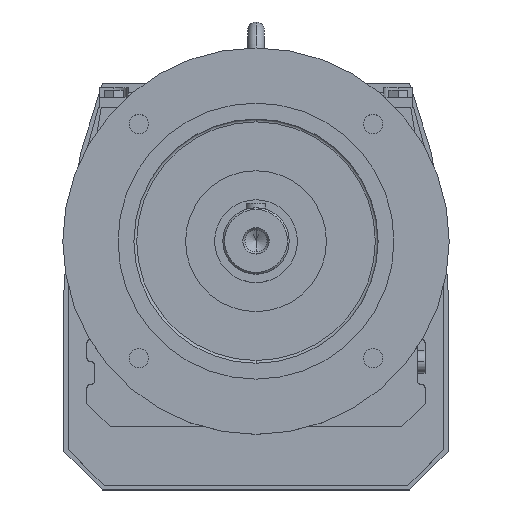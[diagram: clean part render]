
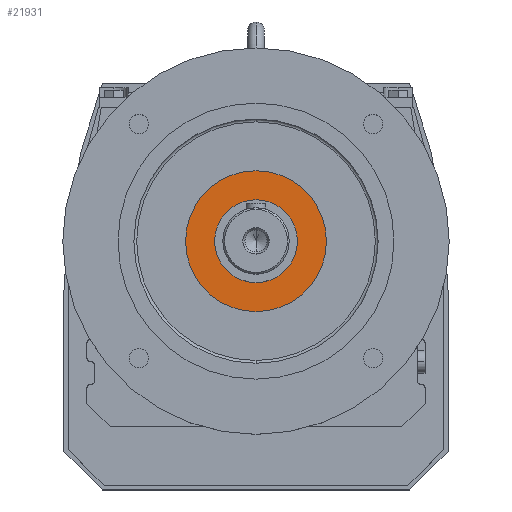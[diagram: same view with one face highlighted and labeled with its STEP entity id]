
A CAD part, top view. The second image highlights one B-rep face of the part: STEP entity #21931.
In plain terms, the highlighted planar face has unit normal (0, 0, 1).
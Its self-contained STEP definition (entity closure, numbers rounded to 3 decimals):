
#21788 = CYLINDRICAL_SURFACE('',#21789,63.788);
#21789 = AXIS2_PLACEMENT_3D('',#21790,#21791,#21792);
#21790 = CARTESIAN_POINT('',(0.,10.2,440.));
#21791 = DIRECTION('',(0.,0.,1.));
#21792 = DIRECTION('',(0.,-1.,0.));
#21818 = CYLINDRICAL_SURFACE('',#21819,63.788);
#21819 = AXIS2_PLACEMENT_3D('',#21820,#21821,#21822);
#21820 = CARTESIAN_POINT('',(0.,10.2,440.));
#21821 = DIRECTION('',(0.,0.,1.));
#21822 = DIRECTION('',(0.,-1.,0.));
#21837 = VERTEX_POINT('',#21838);
#21838 = CARTESIAN_POINT('',(0.,73.988,308.));
#21859 = VERTEX_POINT('',#21860);
#21860 = CARTESIAN_POINT('',(0.,-53.588,308.));
#21879 = EDGE_CURVE('',#21837,#21859,#21880,.T.);
#21880 = SURFACE_CURVE('',#21881,(#21886,#21892),.PCURVE_S1.);
#21881 = CIRCLE('',#21882,63.788);
#21882 = AXIS2_PLACEMENT_3D('',#21883,#21884,#21885);
#21883 = CARTESIAN_POINT('',(0.,10.2,308.));
#21884 = DIRECTION('',(0.,0.,-1.));
#21885 = DIRECTION('',(-1.,0.,0.));
#21886 = PCURVE('',#21788,#21887);
#21887 = DEFINITIONAL_REPRESENTATION('',(#21888),#21891);
#21888 = B_SPLINE_CURVE_WITH_KNOTS('',1,(#21889,#21890),.UNSPECIFIED.,
  .F.,.F.,(2,2),(1.571,4.712),
  .PIECEWISE_BEZIER_KNOTS.);
#21889 = CARTESIAN_POINT('',(3.142,-132.));
#21890 = CARTESIAN_POINT('',(0.,-132.));
#21891 = ( GEOMETRIC_REPRESENTATION_CONTEXT(2) 
PARAMETRIC_REPRESENTATION_CONTEXT() REPRESENTATION_CONTEXT('2D SPACE',''
  ) );
#21892 = PCURVE('',#21893,#21898);
#21893 = PLANE('',#21894);
#21894 = AXIS2_PLACEMENT_3D('',#21895,#21896,#21897);
#21895 = CARTESIAN_POINT('',(-27.516,-0.084,308.));
#21896 = DIRECTION('',(0.,0.,-1.));
#21897 = DIRECTION('',(-1.,0.,0.));
#21898 = DEFINITIONAL_REPRESENTATION('',(#21899),#21903);
#21899 = CIRCLE('',#21900,63.788);
#21900 = AXIS2_PLACEMENT_2D('',#21901,#21902);
#21901 = CARTESIAN_POINT('',(-27.516,10.284));
#21902 = DIRECTION('',(1.,0.));
#21903 = ( GEOMETRIC_REPRESENTATION_CONTEXT(2) 
PARAMETRIC_REPRESENTATION_CONTEXT() REPRESENTATION_CONTEXT('2D SPACE',''
  ) );
#21908 = EDGE_CURVE('',#21859,#21837,#21909,.T.);
#21909 = SURFACE_CURVE('',#21910,(#21915,#21921),.PCURVE_S1.);
#21910 = CIRCLE('',#21911,63.788);
#21911 = AXIS2_PLACEMENT_3D('',#21912,#21913,#21914);
#21912 = CARTESIAN_POINT('',(0.,10.2,308.));
#21913 = DIRECTION('',(0.,0.,-1.));
#21914 = DIRECTION('',(-1.,0.,0.));
#21915 = PCURVE('',#21818,#21916);
#21916 = DEFINITIONAL_REPRESENTATION('',(#21917),#21920);
#21917 = B_SPLINE_CURVE_WITH_KNOTS('',1,(#21918,#21919),.UNSPECIFIED.,
  .F.,.F.,(2,2),(4.712,7.854),
  .PIECEWISE_BEZIER_KNOTS.);
#21918 = CARTESIAN_POINT('',(6.283,-132.));
#21919 = CARTESIAN_POINT('',(3.142,-132.));
#21920 = ( GEOMETRIC_REPRESENTATION_CONTEXT(2) 
PARAMETRIC_REPRESENTATION_CONTEXT() REPRESENTATION_CONTEXT('2D SPACE',''
  ) );
#21921 = PCURVE('',#21893,#21922);
#21922 = DEFINITIONAL_REPRESENTATION('',(#21923),#21927);
#21923 = CIRCLE('',#21924,63.788);
#21924 = AXIS2_PLACEMENT_2D('',#21925,#21926);
#21925 = CARTESIAN_POINT('',(-27.516,10.284));
#21926 = DIRECTION('',(1.,0.));
#21927 = ( GEOMETRIC_REPRESENTATION_CONTEXT(2) 
PARAMETRIC_REPRESENTATION_CONTEXT() REPRESENTATION_CONTEXT('2D SPACE',''
  ) );
#21931 = ADVANCED_FACE('',(#21932,#21998),#21893,.F.);
#21932 = FACE_BOUND('',#21933,.T.);
#21933 = EDGE_LOOP('',(#21934,#21968));
#21934 = ORIENTED_EDGE('',*,*,#21935,.F.);
#21935 = EDGE_CURVE('',#21936,#21938,#21940,.T.);
#21936 = VERTEX_POINT('',#21937);
#21937 = CARTESIAN_POINT('',(0.,-27.3,308.));
#21938 = VERTEX_POINT('',#21939);
#21939 = CARTESIAN_POINT('',(0.,47.7,308.));
#21940 = SURFACE_CURVE('',#21941,(#21946,#21957),.PCURVE_S1.);
#21941 = CIRCLE('',#21942,37.5);
#21942 = AXIS2_PLACEMENT_3D('',#21943,#21944,#21945);
#21943 = CARTESIAN_POINT('',(0.,10.2,308.));
#21944 = DIRECTION('',(0.,0.,1.));
#21945 = DIRECTION('',(-1.,0.,0.));
#21946 = PCURVE('',#21893,#21947);
#21947 = DEFINITIONAL_REPRESENTATION('',(#21948),#21956);
#21948 = ( BOUNDED_CURVE() B_SPLINE_CURVE(2,(#21949,#21950,#21951,#21952
    ,#21953,#21954,#21955),.UNSPECIFIED.,.F.,.F.) 
B_SPLINE_CURVE_WITH_KNOTS((1,2,2,2,2,1),(-2.094,0.,
    2.094,4.189,6.283,8.378),
.UNSPECIFIED.) CURVE() GEOMETRIC_REPRESENTATION_ITEM() 
RATIONAL_B_SPLINE_CURVE((1.,0.5,1.,0.5,1.,0.5,1.)) REPRESENTATION_ITEM(
  '') );
#21949 = CARTESIAN_POINT('',(9.984,10.284));
#21950 = CARTESIAN_POINT('',(9.984,-54.668));
#21951 = CARTESIAN_POINT('',(-46.266,-22.192));
#21952 = CARTESIAN_POINT('',(-102.516,10.284));
#21953 = CARTESIAN_POINT('',(-46.266,42.76));
#21954 = CARTESIAN_POINT('',(9.984,75.236));
#21955 = CARTESIAN_POINT('',(9.984,10.284));
#21956 = ( GEOMETRIC_REPRESENTATION_CONTEXT(2) 
PARAMETRIC_REPRESENTATION_CONTEXT() REPRESENTATION_CONTEXT('2D SPACE',''
  ) );
#21957 = PCURVE('',#21958,#21963);
#21958 = CYLINDRICAL_SURFACE('',#21959,37.5);
#21959 = AXIS2_PLACEMENT_3D('',#21960,#21961,#21962);
#21960 = CARTESIAN_POINT('',(0.,10.2,440.));
#21961 = DIRECTION('',(0.,0.,1.));
#21962 = DIRECTION('',(0.,-1.,0.));
#21963 = DEFINITIONAL_REPRESENTATION('',(#21964),#21967);
#21964 = B_SPLINE_CURVE_WITH_KNOTS('',1,(#21965,#21966),.UNSPECIFIED.,
  .F.,.F.,(2,2),(1.571,4.712),
  .PIECEWISE_BEZIER_KNOTS.);
#21965 = CARTESIAN_POINT('',(0.,-132.));
#21966 = CARTESIAN_POINT('',(3.142,-132.));
#21967 = ( GEOMETRIC_REPRESENTATION_CONTEXT(2) 
PARAMETRIC_REPRESENTATION_CONTEXT() REPRESENTATION_CONTEXT('2D SPACE',''
  ) );
#21968 = ORIENTED_EDGE('',*,*,#21969,.F.);
#21969 = EDGE_CURVE('',#21938,#21936,#21970,.T.);
#21970 = SURFACE_CURVE('',#21971,(#21976,#21987),.PCURVE_S1.);
#21971 = CIRCLE('',#21972,37.5);
#21972 = AXIS2_PLACEMENT_3D('',#21973,#21974,#21975);
#21973 = CARTESIAN_POINT('',(0.,10.2,308.));
#21974 = DIRECTION('',(0.,0.,1.));
#21975 = DIRECTION('',(-1.,0.,0.));
#21976 = PCURVE('',#21893,#21977);
#21977 = DEFINITIONAL_REPRESENTATION('',(#21978),#21986);
#21978 = ( BOUNDED_CURVE() B_SPLINE_CURVE(2,(#21979,#21980,#21981,#21982
    ,#21983,#21984,#21985),.UNSPECIFIED.,.F.,.F.) 
B_SPLINE_CURVE_WITH_KNOTS((1,2,2,2,2,1),(-2.094,0.,
    2.094,4.189,6.283,8.378),
.UNSPECIFIED.) CURVE() GEOMETRIC_REPRESENTATION_ITEM() 
RATIONAL_B_SPLINE_CURVE((1.,0.5,1.,0.5,1.,0.5,1.)) REPRESENTATION_ITEM(
  '') );
#21979 = CARTESIAN_POINT('',(9.984,10.284));
#21980 = CARTESIAN_POINT('',(9.984,-54.668));
#21981 = CARTESIAN_POINT('',(-46.266,-22.192));
#21982 = CARTESIAN_POINT('',(-102.516,10.284));
#21983 = CARTESIAN_POINT('',(-46.266,42.76));
#21984 = CARTESIAN_POINT('',(9.984,75.236));
#21985 = CARTESIAN_POINT('',(9.984,10.284));
#21986 = ( GEOMETRIC_REPRESENTATION_CONTEXT(2) 
PARAMETRIC_REPRESENTATION_CONTEXT() REPRESENTATION_CONTEXT('2D SPACE',''
  ) );
#21987 = PCURVE('',#21988,#21993);
#21988 = CYLINDRICAL_SURFACE('',#21989,37.5);
#21989 = AXIS2_PLACEMENT_3D('',#21990,#21991,#21992);
#21990 = CARTESIAN_POINT('',(0.,10.2,440.));
#21991 = DIRECTION('',(0.,0.,1.));
#21992 = DIRECTION('',(0.,-1.,0.));
#21993 = DEFINITIONAL_REPRESENTATION('',(#21994),#21997);
#21994 = B_SPLINE_CURVE_WITH_KNOTS('',1,(#21995,#21996),.UNSPECIFIED.,
  .F.,.F.,(2,2),(4.712,7.854),
  .PIECEWISE_BEZIER_KNOTS.);
#21995 = CARTESIAN_POINT('',(3.142,-132.));
#21996 = CARTESIAN_POINT('',(6.283,-132.));
#21997 = ( GEOMETRIC_REPRESENTATION_CONTEXT(2) 
PARAMETRIC_REPRESENTATION_CONTEXT() REPRESENTATION_CONTEXT('2D SPACE',''
  ) );
#21998 = FACE_BOUND('',#21999,.T.);
#21999 = EDGE_LOOP('',(#22000,#22001));
#22000 = ORIENTED_EDGE('',*,*,#21908,.F.);
#22001 = ORIENTED_EDGE('',*,*,#21879,.F.);
